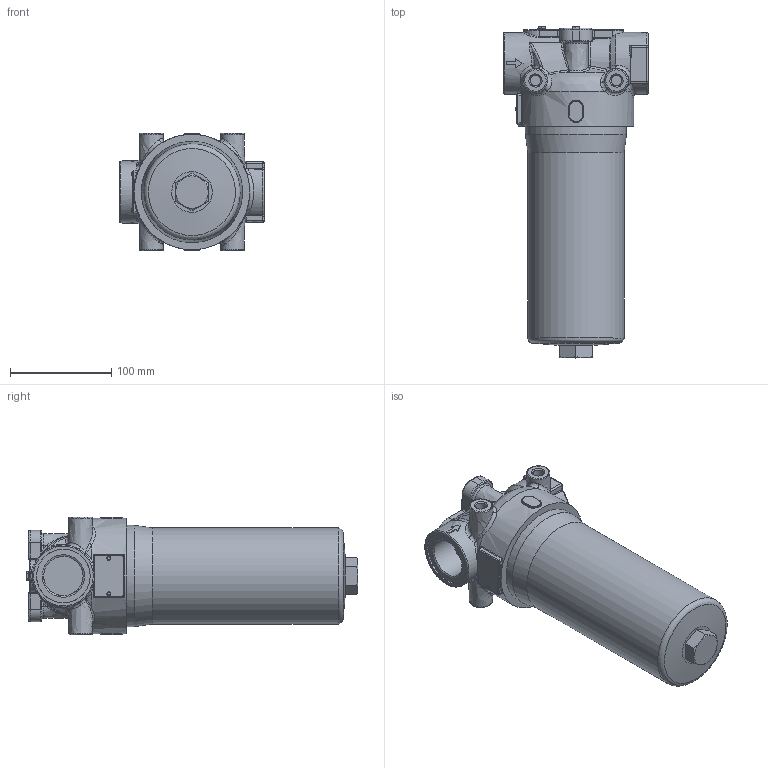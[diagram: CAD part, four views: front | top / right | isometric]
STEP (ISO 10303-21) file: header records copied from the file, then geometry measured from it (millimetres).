
FILE_DESCRIPTION((''),'2;1');
FILE_NAME('U:\Users\r.stiegele\D232-256(13855900).stp', '2014-03-04T15:08:38',('User'),('SDRC'),'I-DEAS Master Series 9','UNIX', 'Yes');
FILE_SCHEMA(('AUTOMOTIVE_DESIGN { 1 0 10303 214 1 1 1 1 }'));
Length unit declared in the file: millimetre
Products named in the file (1): 13855900(234513)
Bounding box: 143 x 327.9 x 116 mm (x, y, z)
Volume: 2428652.9 mm3; surface area: 140152.7 mm2
Topology: 1 solids, 7 shells, 463 faces, 1071 edges, 633 vertices
Faces by surface type: bspline 463
Entity records: 19161 total; most frequent: CARTESIAN_POINT 13103, ORIENTED_EDGE 2104, EDGE_CURVE 1052, VERTEX_POINT 633, B_SPLINE_CURVE_WITH_KNOTS 505, EDGE_LOOP 501, FACE_OUTER_BOUND 463, ADVANCED_FACE 463
